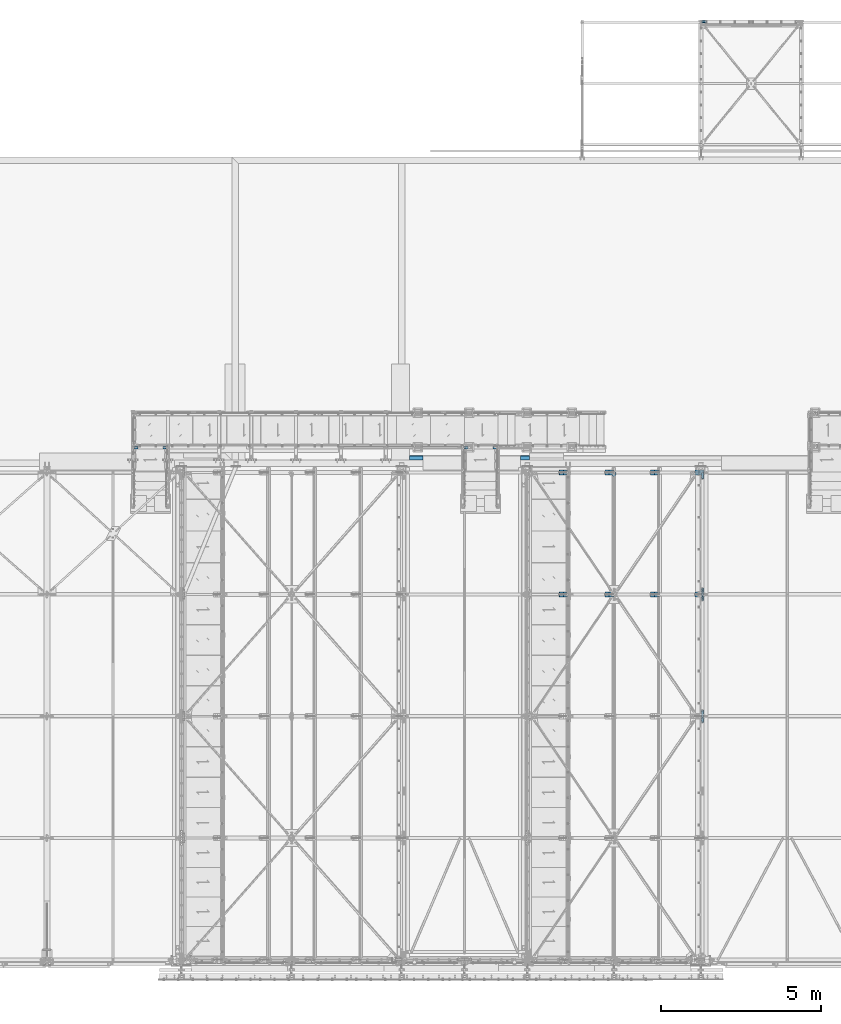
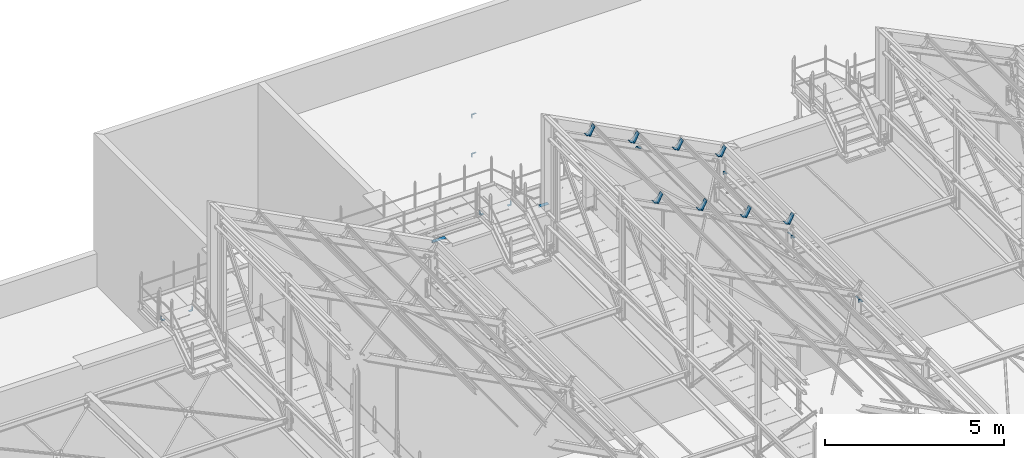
# One storey, part 360 of 362: 22 beams, 22 elements without a shape of their own.
"""IFC2X3 building model written with IfcOpenShell, lengths in millimetres."""

from ifc_helpers import new_model, si_unit, frame, origin_with_axes, place, context, subcontext, project, spatial, faceted_brep, material, type_object, element, aggregate, save


model = new_model("IFC2X3")

# Units and contexts
model_context = context("Model", 3, precision=1e-05, world=origin_with_axes())
body_context = subcontext(model_context, "Body", "Model", "MODEL_VIEW")
ifc_project = project(units=[si_unit("LENGTHUNIT", "METRE", prefix="MILLI"), si_unit("AREAUNIT", "SQUARE_METRE"), si_unit("VOLUMEUNIT", "CUBIC_METRE"), si_unit("MASSUNIT", "GRAM", prefix="KILO"), si_unit("TIMEUNIT", "SECOND"), si_unit("PLANEANGLEUNIT", "RADIAN"), si_unit("SOLIDANGLEUNIT", "STERADIAN"), si_unit("THERMODYNAMICTEMPERATUREUNIT", "DEGREE_CELSIUS"), si_unit("LUMINOUSINTENSITYUNIT", "LUMEN")], contexts=[model_context])

# Site, building, storey
site_placement = place(None, origin_with_axes())
site = spatial("IfcSite", under=ifc_project, at=site_placement, Name="Undefined", CompositionType="ELEMENT")
building_placement = place(site_placement, origin_with_axes())
building = spatial("IfcBuilding", under=site, at=building_placement, Name="Undefined", CompositionType="ELEMENT")
storey_placement = place(building_placement, origin_with_axes())
storey = spatial("IfcBuildingStorey", under=building, at=storey_placement, Name="Undefined", CompositionType="ELEMENT", Elevation=0.0)

# Assembly, beam
assembly_1_placement = place(storey_placement, origin_with_axes())
assembly_1 = element("IfcElementAssembly", 1, at=assembly_1_placement, inside=storey, AssemblyPlace="NOTDEFINED", PredefinedType="NOTDEFINED")
ifc_material = material(Name="Undefined/S235-E24")
beam_type_1 = type_object("IfcBeamType", Name="PL1*419", PredefinedType="NOTDEFINED")
beam_1_placement = place(assembly_1_placement, frame((19999.0000035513, 15725.5518131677, 8490.00255378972), z_axis=(-1.0, 0.0, 0.0), x_axis=(0.0, -0.104503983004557, 0.994524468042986)))
beam_1 = element("IfcBeam", 2, at=beam_1_placement, type_object=beam_type_1, material=ifc_material, Name="COIFFE", ObjectType="PL1*419", context=body_context, shape_type="Brep", body=[
    faceted_brep([(1.21872290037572e-10, -0.5, -209.5), (1.21872290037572e-10, -0.5, 209.5), (-1.24600774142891e-10, 0.5, 209.5), (-1.24600774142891e-10, 0.5, -209.5), (9.99994928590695, 0.500000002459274, 209.5), (9.99994928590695, 0.500000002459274, -209.5), (10.0523447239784, -0.499999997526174, -209.5), (10.0523447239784, -0.499999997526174, 209.5), (99.5071476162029, 9.90535807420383, 209.5), (99.5071476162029, 9.90535807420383, -209.5), (98.6389784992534, 8.80862575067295, -209.5), (98.6389784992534, 8.80862575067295, 209.5), (116.598834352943, -124.046522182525, 209.5), (116.598834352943, -124.046522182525, -209.5), (115.606876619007, -124.173091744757, 209.5), (115.606876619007, -124.173091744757, -209.5)], [[[0, 1, 2, 3]], [[3, 2, 4, 5]], [[1, 0, 6, 7]], [[5, 4, 8, 9]], [[7, 6, 10, 11]], [[9, 8, 12, 13]], [[8, 4, 2, 1, 7, 11, 14, 12]], [[11, 10, 15, 14]], [[10, 6, 0, 3, 5, 9, 13, 15]], [[14, 15, 13, 12]]]),
])
aggregate(assembly_1, [beam_1])

assembly_2_placement = place(storey_placement, origin_with_axes())
assembly_2 = element("IfcElementAssembly", 3, at=assembly_2_placement, inside=storey, AssemblyPlace="NOTDEFINED", PredefinedType="NOTDEFINED")
beam_type_2 = type_object("IfcBeamType", Name="PL1*283", PredefinedType="NOTDEFINED")
beam_2_placement = place(assembly_2_placement, frame((23395.0000035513, 15725.5518131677, 8490.00255378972), z_axis=(-1.0, 0.0, 0.0), x_axis=(0.0, -0.104503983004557, 0.994524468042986)))
beam_2 = element("IfcBeam", 4, at=beam_2_placement, type_object=beam_type_2, material=ifc_material, Name="COIFFE", ObjectType="PL1*283", context=body_context, shape_type="Brep", body=[
    faceted_brep([(1.21872290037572e-10, -0.5, -141.5), (1.21872290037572e-10, -0.5, 141.5), (-1.24600774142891e-10, 0.5, 141.5), (-1.24600774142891e-10, 0.5, -141.5), (9.99994928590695, 0.500000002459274, 141.5), (9.99994928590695, 0.500000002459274, -141.5), (10.0523447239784, -0.499999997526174, -141.5), (10.0523447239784, -0.499999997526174, 141.5), (99.5071476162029, 9.90535807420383, 141.5), (99.5071476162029, 9.90535807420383, -141.5), (98.6389784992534, 8.80862575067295, -141.5), (98.6389784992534, 8.80862575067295, 141.5), (116.598834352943, -124.046522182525, 141.5), (116.598834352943, -124.046522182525, -141.5), (115.606876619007, -124.173091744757, 141.5), (115.606876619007, -124.173091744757, -141.5)], [[[0, 1, 2, 3]], [[3, 2, 4, 5]], [[1, 0, 6, 7]], [[5, 4, 8, 9]], [[7, 6, 10, 11]], [[9, 8, 12, 13]], [[8, 4, 2, 1, 7, 11, 14, 12]], [[11, 10, 15, 14]], [[10, 6, 0, 3, 5, 9, 13, 15]], [[14, 15, 13, 12]]]),
])
aggregate(assembly_2, [beam_2])

assembly_3_placement = place(storey_placement, origin_with_axes())
assembly_3 = element("IfcElementAssembly", 5, at=assembly_3_placement, inside=storey, AssemblyPlace="NOTDEFINED", PredefinedType="NOTDEFINED")
beam_type_3 = type_object("IfcBeamType", Name="PL5*60", PredefinedType="NOTDEFINED")
beam_3_placement = place(assembly_3_placement, frame((28908.4942429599, 29270.0000006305, 36.0000005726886), z_axis=(0.0, 1.0, 0.0), x_axis=(0.0, 0.0, 1.0)))
beam_3 = element("IfcBeam", 6, at=beam_3_placement, type_object=beam_type_3, material=ifc_material, Name="ATTACHE", ObjectType="PL5*60", context=body_context, shape_type="Brep", body=[
    faceted_brep([(7.105427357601e-15, -2.5, -30.0), (0.0, -2.50000000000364, 29.9999999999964), (7.105427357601e-15, 2.49999999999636, 29.9999999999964), (7.105427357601e-15, 2.5, -30.0), (105.000000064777, 2.49999999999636, 29.9999999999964), (105.000000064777, 2.5, -30.0), (109.999999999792, -2.5, -30.0), (109.999999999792, -2.50000000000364, 29.9999999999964), (105.000001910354, 144.500029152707, 29.9999999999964), (105.000001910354, 144.500029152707, -30.0), (110.000001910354, 144.500029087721, 29.9999999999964), (110.000001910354, 144.500029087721, -30.0)], [[[0, 1, 2, 3]], [[3, 2, 4, 5]], [[1, 0, 6, 7]], [[5, 4, 8, 9]], [[4, 2, 1, 7, 10, 8]], [[7, 6, 11, 10]], [[6, 0, 3, 5, 9, 11]], [[10, 11, 9, 8]]]),
])
aggregate(assembly_3, [beam_3])

assembly_4_placement = place(storey_placement, origin_with_axes())
assembly_4 = element("IfcElementAssembly", 7, at=assembly_4_placement, inside=storey, AssemblyPlace="NOTDEFINED", PredefinedType="NOTDEFINED")
beam_4_placement = place(assembly_4_placement, frame((28908.4942429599, 29270.0000006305, 1376.00000057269), z_axis=(0.0, 1.0, 0.0), x_axis=(0.0, 0.0, 1.0)))
beam_4 = element("IfcBeam", 8, at=beam_4_placement, type_object=beam_type_3, material=ifc_material, Name="ATTACHE", ObjectType="PL5*60", context=body_context, shape_type="Brep", body=[
    faceted_brep([(7.105427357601e-15, -2.5, -30.0), (0.0, -2.50000000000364, 29.9999999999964), (7.105427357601e-15, 2.49999999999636, 29.9999999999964), (7.105427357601e-15, 2.5, -30.0), (105.000000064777, 2.49999999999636, 29.9999999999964), (105.000000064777, 2.5, -30.0), (109.999999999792, -2.5, -30.0), (109.999999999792, -2.50000000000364, 29.9999999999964), (105.000001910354, 144.500029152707, 29.9999999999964), (105.000001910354, 144.500029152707, -30.0), (110.000001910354, 144.500029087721, 29.9999999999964), (110.000001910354, 144.500029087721, -30.0)], [[[0, 1, 2, 3]], [[3, 2, 4, 5]], [[1, 0, 6, 7]], [[5, 4, 8, 9]], [[4, 2, 1, 7, 10, 8]], [[7, 6, 11, 10]], [[6, 0, 3, 5, 9, 11]], [[10, 11, 9, 8]]]),
])
aggregate(assembly_4, [beam_4])

assembly_5_placement = place(storey_placement, origin_with_axes())
assembly_5 = element("IfcElementAssembly", 9, at=assembly_5_placement, inside=storey, AssemblyPlace="NOTDEFINED", PredefinedType="NOTDEFINED")
beam_type_4 = type_object("IfcBeamType", Name="PL8*80", PredefinedType="NOTDEFINED")
beam_5_placement = place(assembly_5_placement, frame((12100.0050724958, 15980.0038659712, 8704.0), z_axis=(0.0, 1.0, 0.0), x_axis=(1.0, 0.0, 0.0)))
beam_5 = element("IfcBeam", 10, at=beam_5_placement, type_object=beam_type_4, material=ifc_material, Name="ATTACHE", ObjectType="PL8*80", context=body_context, shape_type="Brep", body=[
    faceted_brep([(0.0, -4.0, -40.0), (0.0, -4.0, 40.0), (0.0, 4.0, 40.0), (0.0, 4.0, -40.0), (109.996772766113, 4.0, 40.0), (109.996772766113, 4.0, -40.0), (101.996772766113, -4.0, -40.0), (101.996772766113, -4.0, 40.0), (109.996772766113, -136.0, 40.0), (109.996772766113, -136.0, -40.0), (101.996772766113, -136.0, 40.0), (101.996772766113, -136.0, -40.0)], [[[0, 1, 2, 3]], [[3, 2, 4, 5]], [[1, 0, 6, 7]], [[5, 4, 8, 9]], [[4, 2, 1, 7, 10, 8]], [[7, 6, 11, 10]], [[6, 0, 3, 5, 9, 11]], [[10, 11, 9, 8]]]),
])
aggregate(assembly_5, [beam_5])

assembly_6_placement = place(storey_placement, origin_with_axes())
assembly_6 = element("IfcElementAssembly", 11, at=assembly_6_placement, inside=storey, AssemblyPlace="NOTDEFINED", PredefinedType="NOTDEFINED")
beam_6_placement = place(assembly_6_placement, frame((11320.0029591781, 15980.0002777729, 8704.0), z_axis=(0.0, 1.0, 0.0), x_axis=(-1.0, 0.0, 0.0)))
beam_6 = element("IfcBeam", 12, at=beam_6_placement, type_object=beam_type_4, material=ifc_material, Name="ATTACHE", ObjectType="PL8*80", context=body_context, shape_type="Brep", body=[
    faceted_brep([(0.0, -4.0, -40.0), (0.0, -4.0, 40.0), (0.0, 4.0, 40.0), (0.0, 4.0, -40.0), (101.996772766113, 4.0, 40.0), (101.996772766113, 4.0, -40.0), (109.996772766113, -4.0, -40.0), (109.996772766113, -4.0, 40.0), (101.996772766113, 136.0, 40.0), (101.996772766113, 136.0, -40.0), (109.996772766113, 136.0, 40.0), (109.996772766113, 136.0, -40.0)], [[[0, 1, 2, 3]], [[3, 2, 4, 5]], [[1, 0, 6, 7]], [[5, 4, 8, 9]], [[4, 2, 1, 7, 10, 8]], [[7, 6, 11, 10]], [[6, 0, 3, 5, 9, 11]], [[10, 11, 9, 8]]]),
])
aggregate(assembly_6, [beam_6])

assembly_7_placement = place(storey_placement, origin_with_axes())
assembly_7 = element("IfcElementAssembly", 13, at=assembly_7_placement, inside=storey, AssemblyPlace="NOTDEFINED", PredefinedType="NOTDEFINED")
beam_7_placement = place(assembly_7_placement, frame((22400.0050724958, 15980.0038659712, 8704.0), z_axis=(0.0, 1.0, 0.0), x_axis=(1.0, 0.0, 0.0)))
beam_7 = element("IfcBeam", 14, at=beam_7_placement, type_object=beam_type_4, material=ifc_material, Name="ATTACHE", ObjectType="PL8*80", context=body_context, shape_type="Brep", body=[
    faceted_brep([(0.0, -4.0, -40.0), (0.0, -4.0, 40.0), (0.0, 4.0, 40.0), (0.0, 4.0, -40.0), (109.996772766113, 4.0, 40.0), (109.996772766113, 4.0, -40.0), (101.996772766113, -4.0, -40.0), (101.996772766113, -4.0, 40.0), (109.996772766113, -136.0, 40.0), (109.996772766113, -136.0, -40.0), (101.996772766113, -136.0, 40.0), (101.996772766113, -136.0, -40.0)], [[[0, 1, 2, 3]], [[3, 2, 4, 5]], [[1, 0, 6, 7]], [[5, 4, 8, 9]], [[4, 2, 1, 7, 10, 8]], [[7, 6, 11, 10]], [[6, 0, 3, 5, 9, 11]], [[10, 11, 9, 8]]]),
])
aggregate(assembly_7, [beam_7])

assembly_8_placement = place(storey_placement, origin_with_axes())
assembly_8 = element("IfcElementAssembly", 15, at=assembly_8_placement, inside=storey, AssemblyPlace="NOTDEFINED", PredefinedType="NOTDEFINED")
beam_8_placement = place(assembly_8_placement, frame((21620.0029591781, 15980.0038659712, 8704.0), z_axis=(0.0, 1.0, 0.0), x_axis=(-1.0, 0.0, 0.0)))
beam_8 = element("IfcBeam", 16, at=beam_8_placement, type_object=beam_type_4, material=ifc_material, Name="ATTACHE", ObjectType="PL8*80", context=body_context, shape_type="Brep", body=[
    faceted_brep([(0.0, -4.0, -40.0), (0.0, -4.0, 40.0), (0.0, 4.0, 40.0), (0.0, 4.0, -40.0), (101.996772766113, 4.0, 40.0), (101.996772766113, 4.0, -40.0), (109.996772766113, -4.0, -40.0), (109.996772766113, -4.0, 40.0), (101.996772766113, 136.0, 40.0), (101.996772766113, 136.0, -40.0), (109.996772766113, 136.0, 40.0), (109.996772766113, 136.0, -40.0)], [[[0, 1, 2, 3]], [[3, 2, 4, 5]], [[1, 0, 6, 7]], [[5, 4, 8, 9]], [[4, 2, 1, 7, 10, 8]], [[7, 6, 11, 10]], [[6, 0, 3, 5, 9, 11]], [[10, 11, 9, 8]]]),
])
aggregate(assembly_8, [beam_8])

assembly_9_placement = place(storey_placement, origin_with_axes())
assembly_9 = element("IfcElementAssembly", 17, at=assembly_9_placement, inside=storey, Name="PANNE SHED", AssemblyPlace="NOTDEFINED", PredefinedType="NOTDEFINED")
beam_type_5 = type_object("IfcBeamType", Name="PL10*160", PredefinedType="NOTDEFINED")
beam_9_placement = place(assembly_9_placement, frame((24741.3379597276, 15200.0000408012, 11118.1442193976), z_axis=(0.0, -1.0, 0.0), x_axis=(-0.460093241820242, 0.0, -0.887870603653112)))
beam_9 = element("IfcBeam", 18, at=beam_9_placement, type_object=beam_type_5, material=ifc_material, Name="PANNE SHED", ObjectType="PL10*160", context=body_context, shape_type="Brep", body=[
    faceted_brep([(5.07934601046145e-08, -5.00000000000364, -80.0), (5.081164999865e-08, -5.0, 80.0), (-5.08007360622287e-08, 5.0, 79.9999999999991), (-5.0815287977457e-08, 4.99999999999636, -80.0000000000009), (329.999999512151, 5.00000335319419, 79.99999999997), (329.999999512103, 5.00000335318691, -80.00000000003), (319.999998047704, -4.9999967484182, -80.0000000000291), (319.999998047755, -4.99999674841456, 79.9999999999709), (329.999977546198, -144.999983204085, 79.9999999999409), (329.999977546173, -144.999983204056, -80.0000000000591), (319.999977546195, -144.999981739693, 79.9999999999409), (319.999977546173, -144.999981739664, -80.0000000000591)], [[[0, 1, 2, 3]], [[3, 2, 4, 5]], [[1, 0, 6, 7]], [[5, 4, 8, 9]], [[4, 2, 1, 7, 10, 8]], [[7, 6, 11, 10]], [[6, 0, 3, 5, 9, 11]], [[10, 11, 9, 8]]]),
])
aggregate(assembly_9, [beam_9])

assembly_10_placement = place(storey_placement, origin_with_axes())
assembly_10 = element("IfcElementAssembly", 19, at=assembly_10_placement, inside=storey, Name="PANNE SHED", AssemblyPlace="NOTDEFINED", PredefinedType="NOTDEFINED")
beam_10_placement = place(assembly_10_placement, frame((24741.3379597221, 11400.0000408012, 11118.1442194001), z_axis=(0.0, -1.0, 0.0), x_axis=(-0.460093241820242, 0.0, -0.887870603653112)))
beam_10 = element("IfcBeam", 20, at=beam_10_placement, type_object=beam_type_5, material=ifc_material, Name="PANNE SHED", ObjectType="PL10*160", context=body_context, shape_type="Brep", body=[
    faceted_brep([(5.07934601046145e-08, -5.00000000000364, -80.0), (5.081164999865e-08, -5.0, 80.0), (-5.08007360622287e-08, 5.0, 79.9999999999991), (-5.0815287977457e-08, 4.99999999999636, -80.0000000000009), (329.999999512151, 5.00000335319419, 79.99999999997), (329.999999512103, 5.00000335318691, -80.00000000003), (319.999998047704, -4.9999967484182, -80.0000000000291), (319.999998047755, -4.99999674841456, 79.9999999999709), (329.999977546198, -144.999983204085, 79.9999999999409), (329.999977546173, -144.999983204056, -80.0000000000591), (319.999977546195, -144.999981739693, 79.9999999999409), (319.999977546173, -144.999981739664, -80.0000000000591)], [[[0, 1, 2, 3]], [[3, 2, 4, 5]], [[1, 0, 6, 7]], [[5, 4, 8, 9]], [[4, 2, 1, 7, 10, 8]], [[7, 6, 11, 10]], [[6, 0, 3, 5, 9, 11]], [[10, 11, 9, 8]]]),
])
aggregate(assembly_10, [beam_10])

assembly_11_placement = place(storey_placement, origin_with_axes())
assembly_11 = element("IfcElementAssembly", 21, at=assembly_11_placement, inside=storey, Name="PANNE SHED", AssemblyPlace="NOTDEFINED", PredefinedType="NOTDEFINED")
beam_11_placement = place(assembly_11_placement, frame((28981.2588118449, 15200.0000408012, 8921.02347048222), z_axis=(0.0, -1.0, 0.0), x_axis=(-0.460093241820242, 0.0, -0.887870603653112)))
beam_11 = element("IfcBeam", 22, at=beam_11_placement, type_object=beam_type_5, material=ifc_material, Name="PANNE SHED", ObjectType="PL10*160", context=body_context, shape_type="Brep", body=[
    faceted_brep([(5.07934601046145e-08, -5.00000000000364, -80.0), (5.081164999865e-08, -5.0, 80.0), (-5.08007360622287e-08, 5.0, 79.9999999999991), (-5.0815287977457e-08, 4.99999999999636, -80.0000000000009), (329.999999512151, 5.00000335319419, 79.99999999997), (329.999999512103, 5.00000335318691, -80.00000000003), (319.999998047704, -4.9999967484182, -80.0000000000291), (319.999998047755, -4.99999674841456, 79.9999999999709), (329.999977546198, -144.999983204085, 79.9999999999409), (329.999977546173, -144.999983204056, -80.0000000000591), (319.999977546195, -144.999981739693, 79.9999999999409), (319.999977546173, -144.999981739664, -80.0000000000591)], [[[0, 1, 2, 3]], [[3, 2, 4, 5]], [[1, 0, 6, 7]], [[5, 4, 8, 9]], [[4, 2, 1, 7, 10, 8]], [[7, 6, 11, 10]], [[6, 0, 3, 5, 9, 11]], [[10, 11, 9, 8]]]),
])
aggregate(assembly_11, [beam_11])

assembly_12_placement = place(storey_placement, origin_with_axes())
assembly_12 = element("IfcElementAssembly", 23, at=assembly_12_placement, inside=storey, Name="PANNE SHED", AssemblyPlace="NOTDEFINED", PredefinedType="NOTDEFINED")
beam_12_placement = place(assembly_12_placement, frame((28981.2588118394, 11400.0000408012, 8921.0234704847), z_axis=(0.0, -1.0, 0.0), x_axis=(-0.460093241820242, 0.0, -0.887870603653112)))
beam_12 = element("IfcBeam", 24, at=beam_12_placement, type_object=beam_type_5, material=ifc_material, Name="PANNE SHED", ObjectType="PL10*160", context=body_context, shape_type="Brep", body=[
    faceted_brep([(5.07934601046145e-08, -5.00000000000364, -80.0), (5.081164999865e-08, -5.0, 80.0), (-5.08007360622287e-08, 5.0, 79.9999999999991), (-5.0815287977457e-08, 4.99999999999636, -80.0000000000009), (329.999999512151, 5.00000335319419, 79.99999999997), (329.999999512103, 5.00000335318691, -80.00000000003), (319.999998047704, -4.9999967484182, -80.0000000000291), (319.999998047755, -4.99999674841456, 79.9999999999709), (329.999977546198, -144.999983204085, 79.9999999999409), (329.999977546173, -144.999983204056, -80.0000000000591), (319.999977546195, -144.999981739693, 79.9999999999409), (319.999977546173, -144.999981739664, -80.0000000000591)], [[[0, 1, 2, 3]], [[3, 2, 4, 5]], [[1, 0, 6, 7]], [[5, 4, 8, 9]], [[4, 2, 1, 7, 10, 8]], [[7, 6, 11, 10]], [[6, 0, 3, 5, 9, 11]], [[10, 11, 9, 8]]]),
])
aggregate(assembly_12, [beam_12])

assembly_13_placement = place(storey_placement, origin_with_axes())
assembly_13 = element("IfcElementAssembly", 25, at=assembly_13_placement, inside=storey, Name="PANNE SHED", AssemblyPlace="NOTDEFINED", PredefinedType="NOTDEFINED")
beam_13_placement = place(assembly_13_placement, frame((27594.5879611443, 15200.0000408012, 9639.59426561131), z_axis=(0.0, -1.0, 0.0), x_axis=(-0.460093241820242, 0.0, -0.887870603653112)))
beam_13 = element("IfcBeam", 26, at=beam_13_placement, type_object=beam_type_5, material=ifc_material, Name="PANNE SHED", ObjectType="PL10*160", context=body_context, shape_type="Brep", body=[
    faceted_brep([(5.07934601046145e-08, -5.00000000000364, -80.0), (5.081164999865e-08, -5.0, 80.0), (-5.08007360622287e-08, 5.0, 79.9999999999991), (-5.0815287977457e-08, 4.99999999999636, -80.0000000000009), (329.999999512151, 5.00000335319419, 79.99999999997), (329.999999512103, 5.00000335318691, -80.00000000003), (319.999998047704, -4.9999967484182, -80.0000000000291), (319.999998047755, -4.99999674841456, 79.9999999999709), (329.999977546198, -144.999983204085, 79.9999999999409), (329.999977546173, -144.999983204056, -80.0000000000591), (319.999977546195, -144.999981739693, 79.9999999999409), (319.999977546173, -144.999981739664, -80.0000000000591)], [[[0, 1, 2, 3]], [[3, 2, 4, 5]], [[1, 0, 6, 7]], [[5, 4, 8, 9]], [[4, 2, 1, 7, 10, 8]], [[7, 6, 11, 10]], [[6, 0, 3, 5, 9, 11]], [[10, 11, 9, 8]]]),
])
aggregate(assembly_13, [beam_13])

assembly_14_placement = place(storey_placement, origin_with_axes())
assembly_14 = element("IfcElementAssembly", 27, at=assembly_14_placement, inside=storey, Name="PANNE SHED", AssemblyPlace="NOTDEFINED", PredefinedType="NOTDEFINED")
beam_14_placement = place(assembly_14_placement, frame((27594.5879611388, 11400.0000408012, 9639.5942656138), z_axis=(0.0, -1.0, 0.0), x_axis=(-0.460093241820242, 0.0, -0.887870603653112)))
beam_14 = element("IfcBeam", 28, at=beam_14_placement, type_object=beam_type_5, material=ifc_material, Name="PANNE SHED", ObjectType="PL10*160", context=body_context, shape_type="Brep", body=[
    faceted_brep([(5.07934601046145e-08, -5.00000000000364, -80.0), (5.081164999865e-08, -5.0, 80.0), (-5.08007360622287e-08, 5.0, 79.9999999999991), (-5.0815287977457e-08, 4.99999999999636, -80.0000000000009), (329.999999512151, 5.00000335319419, 79.99999999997), (329.999999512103, 5.00000335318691, -80.00000000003), (319.999998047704, -4.9999967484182, -80.0000000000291), (319.999998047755, -4.99999674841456, 79.9999999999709), (329.999977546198, -144.999983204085, 79.9999999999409), (329.999977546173, -144.999983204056, -80.0000000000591), (319.999977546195, -144.999981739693, 79.9999999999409), (319.999977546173, -144.999981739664, -80.0000000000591)], [[[0, 1, 2, 3]], [[3, 2, 4, 5]], [[1, 0, 6, 7]], [[5, 4, 8, 9]], [[4, 2, 1, 7, 10, 8]], [[7, 6, 11, 10]], [[6, 0, 3, 5, 9, 11]], [[10, 11, 9, 8]]]),
])
aggregate(assembly_14, [beam_14])

assembly_15_placement = place(storey_placement, origin_with_axes())
assembly_15 = element("IfcElementAssembly", 29, at=assembly_15_placement, inside=storey, Name="PANNE SHED", AssemblyPlace="NOTDEFINED", PredefinedType="NOTDEFINED")
beam_15_placement = place(assembly_15_placement, frame((26167.9629604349, 15200.0000408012, 10378.8692425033), z_axis=(0.0, -1.0, 0.0), x_axis=(-0.460093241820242, 0.0, -0.887870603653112)))
beam_15 = element("IfcBeam", 30, at=beam_15_placement, type_object=beam_type_5, material=ifc_material, Name="PANNE SHED", ObjectType="PL10*160", context=body_context, shape_type="Brep", body=[
    faceted_brep([(5.07934601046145e-08, -5.00000000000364, -80.0), (5.081164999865e-08, -5.0, 80.0), (-5.08007360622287e-08, 5.0, 79.9999999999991), (-5.0815287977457e-08, 4.99999999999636, -80.0000000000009), (329.999999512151, 5.00000335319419, 79.99999999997), (329.999999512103, 5.00000335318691, -80.00000000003), (319.999998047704, -4.9999967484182, -80.0000000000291), (319.999998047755, -4.99999674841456, 79.9999999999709), (329.999977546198, -144.999983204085, 79.9999999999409), (329.999977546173, -144.999983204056, -80.0000000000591), (319.999977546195, -144.999981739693, 79.9999999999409), (319.999977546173, -144.999981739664, -80.0000000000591)], [[[0, 1, 2, 3]], [[3, 2, 4, 5]], [[1, 0, 6, 7]], [[5, 4, 8, 9]], [[4, 2, 1, 7, 10, 8]], [[7, 6, 11, 10]], [[6, 0, 3, 5, 9, 11]], [[10, 11, 9, 8]]]),
])
aggregate(assembly_15, [beam_15])

assembly_16_placement = place(storey_placement, origin_with_axes())
assembly_16 = element("IfcElementAssembly", 31, at=assembly_16_placement, inside=storey, Name="PANNE SHED", AssemblyPlace="NOTDEFINED", PredefinedType="NOTDEFINED")
beam_16_placement = place(assembly_16_placement, frame((26167.9629604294, 11400.0000408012, 10378.8692425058), z_axis=(0.0, -1.0, 0.0), x_axis=(-0.460093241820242, 0.0, -0.887870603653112)))
beam_16 = element("IfcBeam", 32, at=beam_16_placement, type_object=beam_type_5, material=ifc_material, Name="PANNE SHED", ObjectType="PL10*160", context=body_context, shape_type="Brep", body=[
    faceted_brep([(5.07934601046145e-08, -5.00000000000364, -80.0), (5.081164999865e-08, -5.0, 80.0), (-5.08007360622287e-08, 5.0, 79.9999999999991), (-5.0815287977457e-08, 4.99999999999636, -80.0000000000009), (329.999999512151, 5.00000335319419, 79.99999999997), (329.999999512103, 5.00000335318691, -80.00000000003), (319.999998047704, -4.9999967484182, -80.0000000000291), (319.999998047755, -4.99999674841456, 79.9999999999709), (329.999977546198, -144.999983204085, 79.9999999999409), (329.999977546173, -144.999983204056, -80.0000000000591), (319.999977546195, -144.999981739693, 79.9999999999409), (319.999977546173, -144.999981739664, -80.0000000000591)], [[[0, 1, 2, 3]], [[3, 2, 4, 5]], [[1, 0, 6, 7]], [[5, 4, 8, 9]], [[4, 2, 1, 7, 10, 8]], [[7, 6, 11, 10]], [[6, 0, 3, 5, 9, 11]], [[10, 11, 9, 8]]]),
])
aggregate(assembly_16, [beam_16])

assembly_17_placement = place(storey_placement, origin_with_axes())
assembly_17 = element("IfcElementAssembly", 33, at=assembly_17_placement, inside=storey, AssemblyPlace="NOTDEFINED", PredefinedType="NOTDEFINED")
beam_type_6 = type_object("IfcBeamType", Name="PL6*50", PredefinedType="NOTDEFINED")
beam_17_placement = place(assembly_17_placement, frame((28935.0000000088, 15014.9649832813, 8076.38272820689), z_axis=(1.0, 0.0, 0.0), x_axis=(0.0, 0.99950644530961, -0.0314144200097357)))
beam_17 = element("IfcBeam", 34, at=beam_17_placement, type_object=beam_type_6, material=ifc_material, Name="ATTACHE", ObjectType="PL6*50", context=body_context, shape_type="Brep", body=[
    faceted_brep([(-5.16229192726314e-09, -3.0, -25.0), (-5.16229192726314e-09, -3.0, 25.0), (5.16229192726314e-09, 3.0, 25.0), (5.16229192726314e-09, 3.0, -25.0), (181.530360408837, 2.99999968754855, 25.0), (181.530360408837, 2.99999968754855, -25.0), (175.715977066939, -3.00000030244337, -25.0), (175.715977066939, -3.00000030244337, 25.0), (184.989399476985, -107.055656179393, 25.0), (184.989399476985, -107.055656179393, -25.0), (178.992360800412, -107.244142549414, 25.0), (178.992360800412, -107.244142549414, -25.0)], [[[0, 1, 2, 3]], [[3, 2, 4, 5]], [[1, 0, 6, 7]], [[5, 4, 8, 9]], [[4, 2, 1, 7, 10, 8]], [[7, 6, 11, 10]], [[6, 0, 3, 5, 9, 11]], [[10, 11, 9, 8]]]),
])
aggregate(assembly_17, [beam_17])

assembly_18_placement = place(storey_placement, origin_with_axes())
assembly_18 = element("IfcElementAssembly", 35, at=assembly_18_placement, inside=storey, AssemblyPlace="NOTDEFINED", PredefinedType="NOTDEFINED")
beam_18_placement = place(assembly_18_placement, frame((28935.0, 11406.5000000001, 8082.99910469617), z_axis=(1.0, 0.0, 0.0), x_axis=(0.0, 0.0, 1.0)))
beam_18 = element("IfcBeam", 36, at=beam_18_placement, type_object=beam_type_6, material=ifc_material, Name="ATTACHE", ObjectType="PL6*50", context=body_context, shape_type="Brep", body=[
    faceted_brep([(-5.16229192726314e-09, -3.0, -25.0), (-5.16229192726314e-09, -3.0, 25.0), (5.16229192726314e-09, 3.0, 25.0), (5.16229192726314e-09, 3.0, -25.0), (109.889991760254, 2.99999999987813, 25.0), (109.889991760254, 2.99999999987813, -25.0), (103.698449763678, -3.0000000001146, -25.0), (103.698449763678, -3.0000000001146, 25.0), (104.18733215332, -178.440765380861, 25.0), (104.18733215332, -178.440765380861, -25.0), (98.1902934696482, -178.252279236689, 25.0), (98.1902934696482, -178.252279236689, -25.0)], [[[0, 1, 2, 3]], [[3, 2, 4, 5]], [[1, 0, 6, 7]], [[5, 4, 8, 9]], [[4, 2, 1, 7, 10, 8]], [[7, 6, 11, 10]], [[6, 0, 3, 5, 9, 11]], [[10, 11, 9, 8]]]),
])
aggregate(assembly_18, [beam_18])

assembly_19_placement = place(storey_placement, origin_with_axes())
assembly_19 = element("IfcElementAssembly", 37, at=assembly_19_placement, inside=storey, AssemblyPlace="NOTDEFINED", PredefinedType="NOTDEFINED")
beam_19_placement = place(assembly_19_placement, frame((28935.0000000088, 11214.9649832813, 8195.81325670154), z_axis=(1.0, 0.0, 0.0), x_axis=(0.0, 0.99950644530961, -0.0314144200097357)))
beam_19 = element("IfcBeam", 38, at=beam_19_placement, type_object=beam_type_6, material=ifc_material, Name="ATTACHE", ObjectType="PL6*50", context=body_context, shape_type="Brep", body=[
    faceted_brep([(-5.16229192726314e-09, -3.0, -25.0), (-5.16229192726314e-09, -3.0, 25.0), (5.16229192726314e-09, 3.0, 25.0), (5.16229192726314e-09, 3.0, -25.0), (181.530360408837, 2.99999968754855, 25.0), (181.530360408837, 2.99999968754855, -25.0), (175.715977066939, -3.00000030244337, -25.0), (175.715977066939, -3.00000030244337, 25.0), (184.989399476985, -107.055656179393, 25.0), (184.989399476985, -107.055656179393, -25.0), (178.992360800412, -107.244142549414, 25.0), (178.992360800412, -107.244142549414, -25.0)], [[[0, 1, 2, 3]], [[3, 2, 4, 5]], [[1, 0, 6, 7]], [[5, 4, 8, 9]], [[4, 2, 1, 7, 10, 8]], [[7, 6, 11, 10]], [[6, 0, 3, 5, 9, 11]], [[10, 11, 9, 8]]]),
])
aggregate(assembly_19, [beam_19])

assembly_20_placement = place(storey_placement, origin_with_axes())
assembly_20 = element("IfcElementAssembly", 39, at=assembly_20_placement, inside=storey, AssemblyPlace="NOTDEFINED", PredefinedType="NOTDEFINED")
beam_20_placement = place(assembly_20_placement, frame((28935.0, 7606.50000000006, 8202.43274464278), z_axis=(1.0, 0.0, 0.0), x_axis=(0.0, 0.0, 1.0)))
beam_20 = element("IfcBeam", 40, at=beam_20_placement, type_object=beam_type_6, material=ifc_material, Name="ATTACHE", ObjectType="PL6*50", context=body_context, shape_type="Brep", body=[
    faceted_brep([(-5.16229192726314e-09, -3.0, -25.0), (-5.16229192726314e-09, -3.0, 25.0), (5.16229192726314e-09, 3.0, 25.0), (5.16229192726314e-09, 3.0, -25.0), (109.889991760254, 2.99999999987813, 25.0), (109.889991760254, 2.99999999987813, -25.0), (103.698449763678, -3.0000000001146, -25.0), (103.698449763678, -3.0000000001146, 25.0), (104.18733215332, -178.440765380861, 25.0), (104.18733215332, -178.440765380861, -25.0), (98.1902934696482, -178.252279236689, 25.0), (98.1902934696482, -178.252279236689, -25.0)], [[[0, 1, 2, 3]], [[3, 2, 4, 5]], [[1, 0, 6, 7]], [[5, 4, 8, 9]], [[4, 2, 1, 7, 10, 8]], [[7, 6, 11, 10]], [[6, 0, 3, 5, 9, 11]], [[10, 11, 9, 8]]]),
])
aggregate(assembly_20, [beam_20])

assembly_21_placement = place(storey_placement, origin_with_axes())
assembly_21 = element("IfcElementAssembly", 41, at=assembly_21_placement, inside=storey, AssemblyPlace="NOTDEFINED", PredefinedType="NOTDEFINED")
beam_21_placement = place(assembly_21_placement, frame((28935.0000000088, 7414.96498328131, 8315.24689664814), z_axis=(1.0, 0.0, 0.0), x_axis=(0.0, 0.99950644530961, -0.0314144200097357)))
beam_21 = element("IfcBeam", 42, at=beam_21_placement, type_object=beam_type_6, material=ifc_material, Name="ATTACHE", ObjectType="PL6*50", context=body_context, shape_type="Brep", body=[
    faceted_brep([(-5.16229192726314e-09, -3.0, -25.0), (-5.16229192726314e-09, -3.0, 25.0), (5.16229192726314e-09, 3.0, 25.0), (5.16229192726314e-09, 3.0, -25.0), (181.530360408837, 2.99999968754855, 25.0), (181.530360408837, 2.99999968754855, -25.0), (175.715977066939, -3.00000030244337, -25.0), (175.715977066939, -3.00000030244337, 25.0), (184.989399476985, -107.055656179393, 25.0), (184.989399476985, -107.055656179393, -25.0), (178.992360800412, -107.244142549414, 25.0), (178.992360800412, -107.244142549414, -25.0)], [[[0, 1, 2, 3]], [[3, 2, 4, 5]], [[1, 0, 6, 7]], [[5, 4, 8, 9]], [[4, 2, 1, 7, 10, 8]], [[7, 6, 11, 10]], [[6, 0, 3, 5, 9, 11]], [[10, 11, 9, 8]]]),
])
aggregate(assembly_21, [beam_21])

assembly_22_placement = place(storey_placement, origin_with_axes())
assembly_22 = element("IfcElementAssembly", 43, at=assembly_22_placement, inside=storey, AssemblyPlace="NOTDEFINED", PredefinedType="NOTDEFINED")
beam_type_7 = type_object("IfcBeamType", Name="PL6*150", PredefinedType="NOTDEFINED")
beam_22_placement = place(assembly_22_placement, frame((26173.6240025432, 15060.000150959, 9888.25202085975), z_axis=(-0.887870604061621, -1.29999898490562e-08, 0.460093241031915), x_axis=(0.0, 1.0, 0.0)))
beam_22 = element("IfcBeam", 44, at=beam_22_placement, type_object=beam_type_7, material=ifc_material, Name="ATTACHE", ObjectType="PL6*150", context=body_context, shape_type="Brep", body=[
    faceted_brep([(86.4999995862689, -2.9999999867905, 75.0000000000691), (86.4999996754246, 3.0000000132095, 75.0000000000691), (-4.78621586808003e-10, 3.00000000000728, 25.0001101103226), (4.37211156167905e-10, -2.99999999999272, 25.0001101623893), (136.999999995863, -3.00000002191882, 74.9999999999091), (136.999999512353, 57.000000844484, 74.9999999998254), (130.999999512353, 57.0000007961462, 74.999999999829), (130.999999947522, 2.9999999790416, 74.9999999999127), (130.999999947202, 2.9999999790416, -75.0000000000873), (130.999999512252, 57.0000007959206, -75.0000000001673), (136.999999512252, 57.0000008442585, -75.0000000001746), (136.999999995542, -3.00000002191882, -75.0000000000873), (86.5000003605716, -2.99999998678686, -74.9999999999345), (86.5000004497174, 3.0000000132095, -74.9999999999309), (-4.37211156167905e-10, 3.00000000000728, -24.9998900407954), (4.78621586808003e-10, -2.99999999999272, -24.9998900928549)], [[[0, 1, 2, 3]], [[4, 5, 6, 7, 1, 0]], [[8, 7, 6, 9]], [[5, 10, 9, 6]], [[4, 11, 10, 5]], [[8, 9, 10, 11, 12, 13]], [[2, 1, 7, 8, 13, 14]], [[3, 2, 14, 15]], [[11, 4, 0, 3, 15, 12]], [[15, 14, 13, 12]]]),
])
aggregate(assembly_22, [beam_22])

save(model, "model.ifc")
